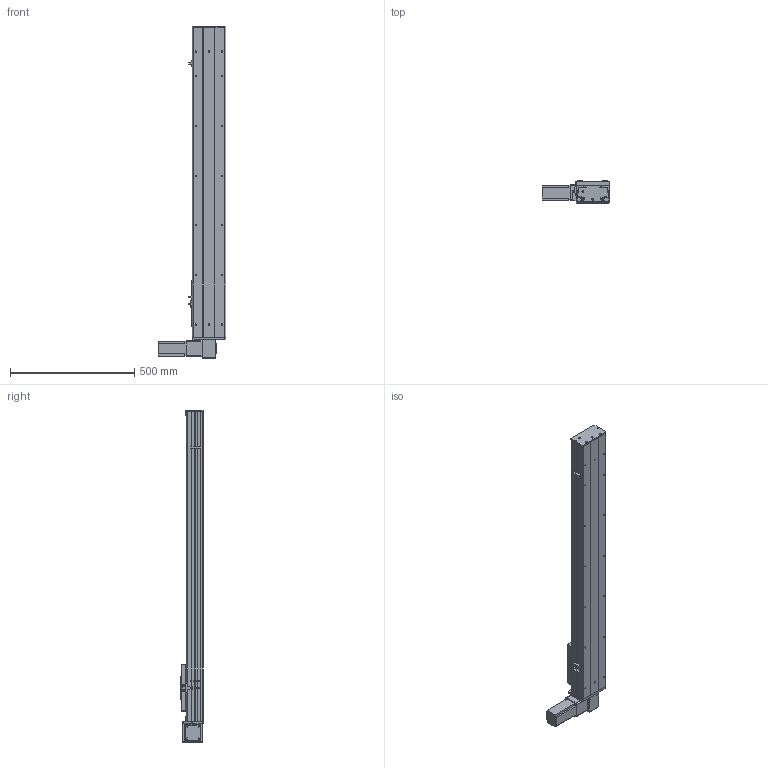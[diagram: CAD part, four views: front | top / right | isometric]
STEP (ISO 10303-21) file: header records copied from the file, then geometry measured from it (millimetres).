
FILE_DESCRIPTION (( 'STEP AP203' ), '1' );
FILE_NAME ('Y135CB-D90-S950-BD-P400W.STEP', '2020-02-19T03:27:52', ( '微软用户' ), ( '微软中国' ), 'SwSTEP 2.0', 'SolidWorks 2017', '' );
FILE_SCHEMA (( 'CONFIG_CONTROL_DESIGN' ));
Length unit declared in the file: millimetre
Products named in the file (16): Y135C-陔俋离換覜結え-; 35CB---喘謫眊楊擘啣; 5C--俋欶; 0B-埴倛裔啣; C-雄赽釱--; 0B-源倛裔啣; Y10B--々湍喘謫眊--666; san松下电机400不带刹车----; 0B-薊粣ん眊; 5CB --掛极耜裔啣-; Y135CB-D90-S950-BD-P400W; C-詩湍揤踡え-陔; 135CB--詩湍-CE; Y135CB-耜裔; Y100-135俋离換覜ん--; 135CB---遴掛极.-
Assembly tree (19 placements, depth 2):
  Y135CB-D90-S950-BD-P400W
    Y135CB-耜裔
    135CB---遴掛极.-
    35CB---喘謫眊楊擘啣
    0B-埴倛裔啣
    0B-源倛裔啣
    san松下电机400不带刹车----
    5CB --掛极耜裔啣-  x2
    C-詩湍揤踡え-陔  x2
    135CB--詩湍-CE
    Y100-135俋离換覜ん--  x3
    Y135C-陔俋离換覜結え-
    5C--俋欶
    C-雄赽釱--
    Y10B--々湍喘謫眊--666
    0B-薊粣ん眊
Bounding box: 272 x 91 x 1338 mm (x, y, z)
Volume: 4256889.9 mm3; surface area: 1620397.2 mm2
Topology: 19 solids, 19 shells, 855 faces, 2266 edges, 1500 vertices
Faces by surface type: cylinder 424, plane 415, cone 16
Entity records: 26006 total; most frequent: DIRECTION 4334, CARTESIAN_POINT 4247, ORIENTED_EDGE 4008, EDGE_CURVE 2004, AXIS2_PLACEMENT_3D 1587, VERTEX_POINT 1328, LINE 1160, VECTOR 1160
